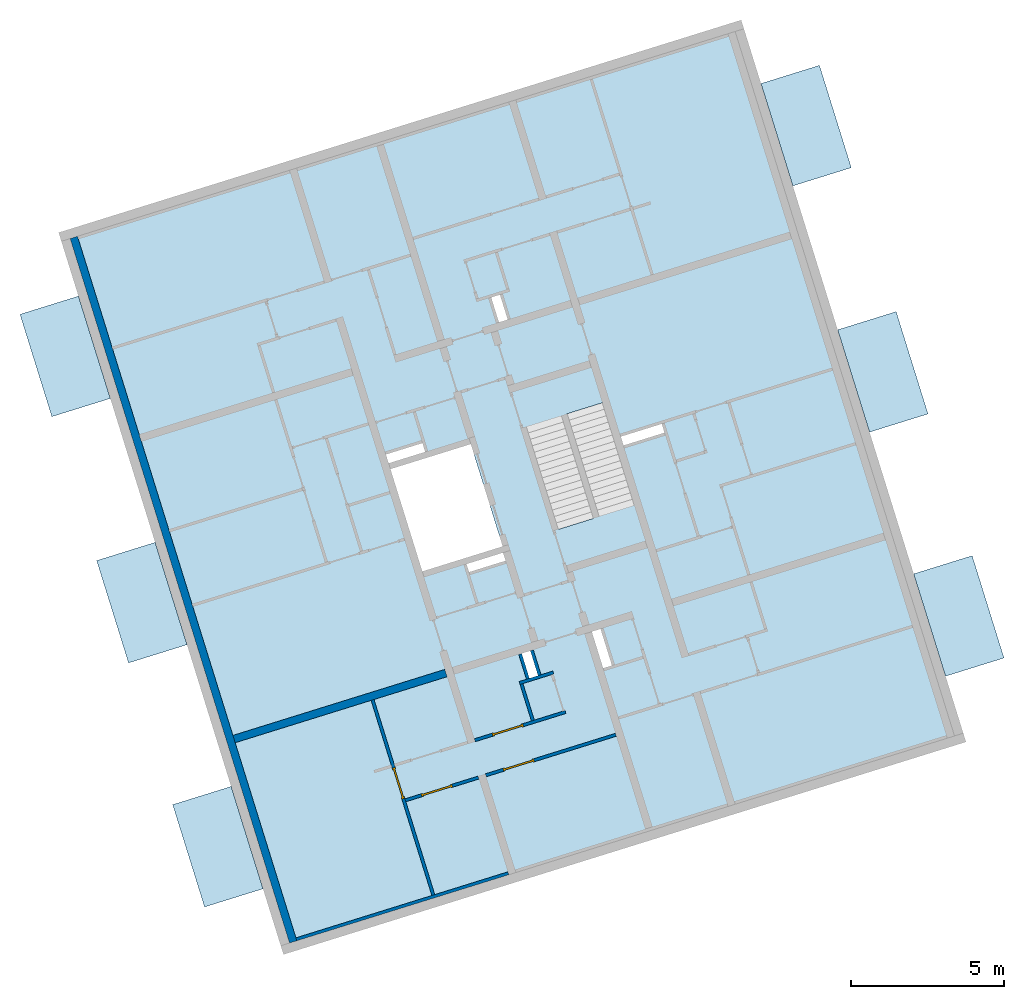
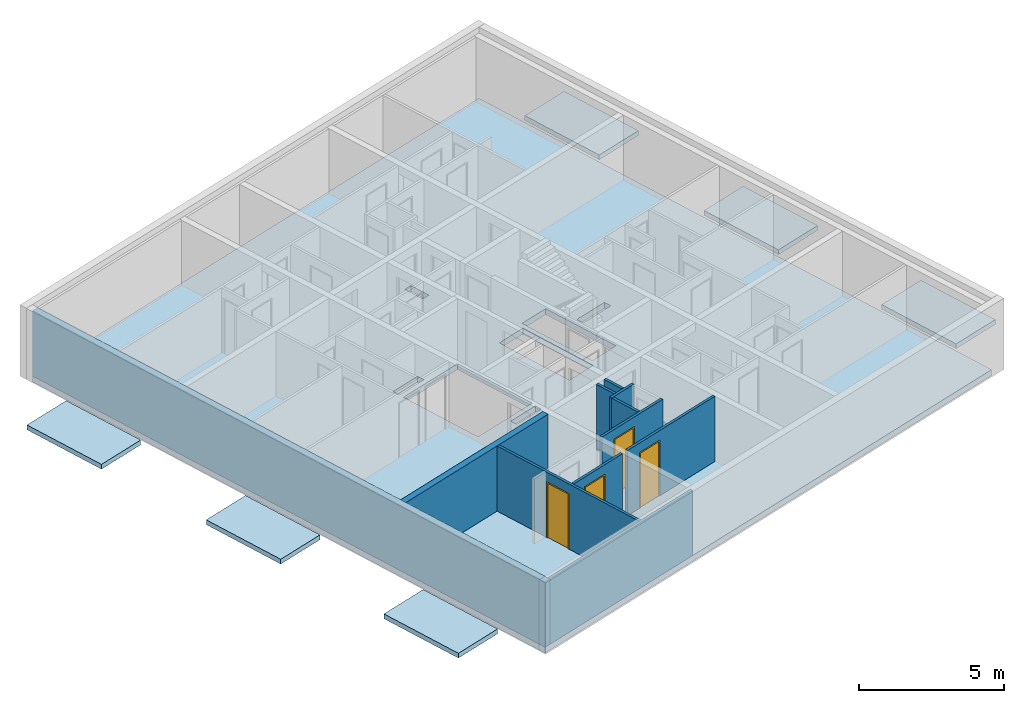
# One storey, part 1 of 8: 11 walls, 7 slabs, 4 doors, 13 openings.
"""IFC4 building model written with IfcOpenShell, lengths in metres."""

import ifcopenshell
import ifcopenshell.guid

model = None  # the IFC model being written
_history = None  # IfcOwnerHistory: only IFC2X3 demands one
_inside = {}  # id of a spatial element -> (the spatial element, [elements in it])
_under = {}  # id of a project, library or spatial element -> (it, [spatial elements below it])
_declared = {}  # id of a project -> (the project, [libraries it declares])
_typed = {}  # id of a type object -> (the type object, [elements of that type])
_made_of = {}  # id of a material, layer set ... -> (it, [elements and type objects made of it])


def new_model(schema):
    """Start an empty IFC model of exactly this schema.

    Asked for "IFC4X3", IfcOpenShell would pick the latest addendum, in which some entities
    have other attributes; the version numbers below select the first issue.
    IFC2X3 requires an IfcOwnerHistory on every rooted entity: one is made here for all.
    """
    global model, _history
    if schema == "IFC4X3":
        model = ifcopenshell.file(schema_version=(4, 3, 0, 0))
    else:
        model = ifcopenshell.file(schema=schema)
    _inside.clear()
    _under.clear()
    _declared.clear()
    _typed.clear()
    _made_of.clear()
    _history = None
    if model.schema == "IFC2X3":
        org = make("IfcOrganization", Name="unknown")
        user = make(
            "IfcPersonAndOrganization",
            ThePerson=make("IfcPerson", FamilyName="unknown"),
            TheOrganization=org,
        )
        app = make(
            "IfcApplication",
            ApplicationDeveloper=org,
            Version="unknown",
            ApplicationFullName="unknown",
            ApplicationIdentifier="unknown",
        )
        _history = make(
            "IfcOwnerHistory",
            OwningUser=user,
            OwningApplication=app,
            ChangeAction="ADDED",
            CreationDate=0,
        )
    return model


def make(cls, **values):
    """One entity of the class cls with the attributes given. An attribute that is None is left unset."""
    return model.create_entity(
        cls, **{name: value for name, value in values.items() if value is not None}
    )


def entity(cls, *values):
    """Any entity or typed value of the class cls, its attributes in the order of the schema. None: left unset."""
    e = model.create_entity(cls)
    for i, value in enumerate(values):
        if value is not None:
            e[i] = value
    return e


def rooted(cls, **values):
    """An entity with a GlobalId (a new one), such as an element, a storey or a relation."""
    return make(cls, GlobalId=ifcopenshell.guid.new(), OwnerHistory=_history, **values)


def si_unit(unit_type, name, prefix=None):
    """IfcSIUnit, for example si_unit("LENGTHUNIT", "METRE", prefix="MILLI")."""
    return make("IfcSIUnit", UnitType=unit_type, Prefix=prefix, Name=name)


def converted_unit(unit_type, name, factor, base, dimensions=None, offset=None):
    """IfcConversionBasedUnit, such as the inch: factor (a typed value) times the base unit."""
    return make(
        "IfcConversionBasedUnit"
        if offset is None
        else "IfcConversionBasedUnitWithOffset",
        ConversionOffset=offset,
        Dimensions=None
        if dimensions is None
        else entity("IfcDimensionalExponents", *dimensions),
        UnitType=unit_type,
        Name=name,
        ConversionFactor=make(
            "IfcMeasureWithUnit", ValueComponent=factor, UnitComponent=base
        ),
    )


def assignment(units):
    """IfcUnitAssignment: the units of a project."""
    return None if units is None else make("IfcUnitAssignment", Units=units)


def point(xyz):
    """IfcCartesianPoint."""
    return None if xyz is None else make("IfcCartesianPoint", Coordinates=xyz)


def direction(xyz):
    """IfcDirection."""
    return None if xyz is None else make("IfcDirection", DirectionRatios=xyz)


def frame(location, z_axis=None, x_axis=None):
    """IfcAxis2Placement3D, a coordinate frame: its origin and axes. An axis left out is left unset."""
    return make(
        "IfcAxis2Placement3D",
        Location=point(location),
        Axis=direction(z_axis),
        RefDirection=direction(x_axis),
    )


def origin():
    """The frame at (0, 0, 0) with its axes left unset."""
    return frame((0.0, 0.0, 0.0))


def place(relative_to, where):
    """IfcLocalPlacement: puts the frame where relative to a parent placement (None: the world)."""
    return make(
        "IfcLocalPlacement", PlacementRelTo=relative_to, RelativePlacement=where
    )


def context(
    kind, dimensions, precision=None, world=None, true_north=None, identifier=None
):
    """IfcGeometricRepresentationContext, for example the 3D "Model" context."""
    return make(
        "IfcGeometricRepresentationContext",
        ContextIdentifier=identifier,
        ContextType=kind,
        CoordinateSpaceDimension=dimensions,
        Precision=precision,
        WorldCoordinateSystem=world,
        TrueNorth=true_north,
    )


def subcontext(parent, identifier, kind, view, scale=None):
    """IfcGeometricRepresentationSubContext, for example "Body" below "Model"."""
    return make(
        "IfcGeometricRepresentationSubContext",
        ContextIdentifier=identifier,
        ContextType=kind,
        ParentContext=parent,
        TargetScale=scale,
        TargetView=view,
    )


def project(units=None, contexts=None):
    """IfcProject with its units and contexts."""
    return rooted(
        "IfcProject",
        Name="project",
        RepresentationContexts=contexts,
        UnitsInContext=assignment(units),
    )


def spatial(cls, under=None, at=None, **own):
    """A site, building, storey or space (cls), placed at a placement, below another one or the project."""
    s = rooted(cls, ObjectPlacement=at, **own)
    if under is not None:
        _under.setdefault(under.id(), (under, []))[1].append(s)
    return s


def point_list(points):
    """IfcCartesianPointList2D or 3D."""
    cls = (
        "IfcCartesianPointList2D" if len(points[0]) == 2 else "IfcCartesianPointList3D"
    )
    return make(cls, CoordList=points)


def indexed_curve(points, segments=None, self_intersect=None):
    """IfcIndexedPolyCurve: lines and arcs through numbered points (the first is 1)."""
    return make(
        "IfcIndexedPolyCurve",
        Points=point_list(points),
        Segments=segments,
        SelfIntersect=self_intersect,
    )


def outline(outer, holes=None, kind="AREA"):
    """IfcArbitraryClosedProfileDef: a profile drawn as a closed curve; with holes, ...WithVoids."""
    if holes is None:
        return make("IfcArbitraryClosedProfileDef", ProfileType=kind, OuterCurve=outer)
    return make(
        "IfcArbitraryProfileDefWithVoids",
        ProfileType=kind,
        OuterCurve=outer,
        InnerCurves=holes,
    )


def extrude(swept, where, along, depth):
    """IfcExtrudedAreaSolid: the profile swept, set in the frame where, extruded along a direction by depth."""
    return make(
        "IfcExtrudedAreaSolid",
        SweptArea=swept,
        Position=where,
        ExtrudedDirection=direction(along),
        Depth=depth,
    )


def polygons(points, faces, closed=None, point_numbers=None):
    """IfcPolygonalFaceSet: a face is its outer loop, then its inner loops; points numbered from 1."""
    made = []
    for loops in faces:
        if len(loops) == 1:
            made.append(make("IfcIndexedPolygonalFace", CoordIndex=loops[0]))
        else:
            made.append(
                make(
                    "IfcIndexedPolygonalFaceWithVoids",
                    CoordIndex=loops[0],
                    InnerCoordIndices=loops[1:],
                )
            )
    return make(
        "IfcPolygonalFaceSet",
        Coordinates=point_list(points),
        Closed=closed,
        Faces=made,
        PnIndex=point_numbers,
    )


def shape(context_of_items, identifier, shape_type, items):
    """IfcShapeRepresentation: the items that make up one representation, for example the "Body"."""
    return make(
        "IfcShapeRepresentation",
        ContextOfItems=context_of_items,
        RepresentationIdentifier=identifier,
        RepresentationType=shape_type,
        Items=items,
    )


def source(mapping_origin, context_of_items, identifier, shape_type, items):
    """IfcRepresentationMap: a shape defined once, which mapped items show again and again."""
    return make(
        "IfcRepresentationMap",
        MappingOrigin=mapping_origin,
        MappedRepresentation=shape(context_of_items, identifier, shape_type, items),
    )


def transform(
    local_origin,
    x_axis=None,
    y_axis=None,
    z_axis=None,
    scale=None,
    scale2=None,
    scale3=None,
    uniform=True,
):
    """IfcCartesianTransformationOperator3D, or its non-uniform kind. x_axis, y_axis, z_axis: its Axis1, 2, 3."""
    if uniform:
        return make(
            "IfcCartesianTransformationOperator3D",
            Axis1=direction(x_axis),
            Axis2=direction(y_axis),
            LocalOrigin=point(local_origin),
            Scale=scale,
            Axis3=direction(z_axis),
        )
    return make(
        "IfcCartesianTransformationOperator3DnonUniform",
        Axis1=direction(x_axis),
        Axis2=direction(y_axis),
        LocalOrigin=point(local_origin),
        Scale=scale,
        Axis3=direction(z_axis),
        Scale2=scale2,
        Scale3=scale3,
    )


def mapped(mapping_source, mapping_target):
    """IfcMappedItem: shows the shape of a source again, moved by a transform."""
    return make(
        "IfcMappedItem", MappingSource=mapping_source, MappingTarget=mapping_target
    )


def material(Name=None, Category=None):
    """IfcMaterial."""
    return make("IfcMaterial", Name=Name, Category=Category)


def constituent(of_material, Name=None, Category=None, fraction=None):
    """IfcMaterialConstituent: one of the materials an element consists of."""
    return make(
        "IfcMaterialConstituent",
        Name=Name,
        Material=of_material,
        Fraction=fraction,
        Category=Category,
    )


def constituent_set(constituents=None, Name=None):
    """IfcMaterialConstituentSet."""
    return make(
        "IfcMaterialConstituentSet", Name=Name, MaterialConstituents=constituents
    )


def made_of(thing, what):
    """Note that an element or type object is made of a material, layer set ...; save() writes the relation."""
    if what is not None:
        _made_of.setdefault(what.id(), (what, []))[1].append(thing)
    return thing


def type_object(cls, material=None, **own):
    """A type object (cls), such as IfcWallType, which elements share."""
    return made_of(rooted(cls, **own), material)


def type_shapes(of_type, sources):
    """Give a type object the sources (RepresentationMaps) that its elements show as mapped items."""
    of_type.RepresentationMaps = sources


def element(
    cls,
    number,
    at=None,
    inside=None,
    cuts=None,
    type_object=None,
    material=None,
    context=None,
    identifier="Body",
    shape_type=None,
    held_by="IfcProductDefinitionShape",
    body=None,
    shapes=None,
    **own,
):
    """One element of the class cls, such as IfcWall. Its Tag is "e" and its number.

    at: its placement. inside: the storey or other place that contains it. cuts: it is an
    opening in that element (IfcRelVoidsElement). A single representation is given by context,
    identifier, shape_type and body (its items); several are given by shapes. held_by: the class
    of the entity that holds the representations. save() writes the other relations.
    """
    e = rooted(cls, Tag="e%d" % number, ObjectPlacement=at, **own)
    if body is not None:
        shapes = [shape(context, identifier, shape_type, body)]
    if shapes is not None:
        e.Representation = make(held_by, Representations=shapes)
    if inside is not None:
        _inside.setdefault(inside.id(), (inside, []))[1].append(e)
    if cuts is not None:
        rooted(
            "IfcRelVoidsElement", RelatingBuildingElement=cuts, RelatedOpeningElement=e
        )
    if type_object is not None:
        _typed.setdefault(type_object.id(), (type_object, []))[1].append(e)
    return made_of(e, material)


def fill(opening, filler):
    """IfcRelFillsElement: the door or window that sits in an opening."""
    return rooted(
        "IfcRelFillsElement",
        RelatingOpeningElement=opening,
        RelatedBuildingElement=filler,
    )


def aggregate(whole, parts):
    """IfcRelAggregates: a whole, such as a stair, and the parts it consists of."""
    return rooted("IfcRelAggregates", RelatingObject=whole, RelatedObjects=parts)


def save(model, path):
    """Write the relations noted so far, then the file.

    IfcRelAggregates (storeys below a building ...), IfcRelContainedInSpatialStructure (elements
    in a storey), IfcRelDefinesByType, IfcRelAssociatesMaterial and IfcRelDeclares: one each for
    every whole, place, type object, material and project.
    """
    for whole, parts in _under.values():
        aggregate(whole, parts)
    for where, things in _inside.values():
        rooted(
            "IfcRelContainedInSpatialStructure",
            RelatedElements=things,
            RelatingStructure=where,
        )
    for kind, things in _typed.values():
        rooted("IfcRelDefinesByType", RelatedObjects=things, RelatingType=kind)
    for what, things in _made_of.values():
        rooted("IfcRelAssociatesMaterial", RelatedObjects=things, RelatingMaterial=what)
    for by, libraries in _declared.values():
        rooted("IfcRelDeclares", RelatingContext=by, RelatedDefinitions=libraries)
    model.write(path)


model = new_model("IFC4")

# Units and contexts
model_context = context("Model", 3, precision=1e-05, world=origin(), true_north=direction((6.12323399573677e-17, 1.0)))
body_context = subcontext(model_context, "Body", "Model", "MODEL_VIEW")
ifc_project = project(units=[si_unit("LENGTHUNIT", "METRE"), si_unit("AREAUNIT", "SQUARE_METRE"), si_unit("VOLUMEUNIT", "CUBIC_METRE"), converted_unit("PLANEANGLEUNIT", "DEGREE", entity("IfcPlaneAngleMeasure", 0.0174532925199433), si_unit("PLANEANGLEUNIT", "RADIAN"), dimensions=[0, 0, 0, 0, 0, 0, 0])], contexts=[model_context])

# Site, building, storey
site_placement = place(None, frame((13.1347999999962, 11.9886000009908, 0.0), z_axis=(0.0, 0.0, 1.0), x_axis=(0.954770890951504, 0.297342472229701, 0.0)))
site = spatial("IfcSite", under=ifc_project, at=site_placement, Name="Schiehaven", CompositionType="ELEMENT")
building_placement = place(site_placement, origin())
building = spatial("IfcBuilding", under=site, at=building_placement, Name="VORM huis", CompositionType="ELEMENT")
storey_placement = place(building_placement, frame((0.0, 0.0, 21.9)))
storey = spatial("IfcBuildingStorey", under=building, at=storey_placement, Name="07 zevende verdieping", CompositionType="ELEMENT", Elevation=21.9)

# Slab, openings
ifc_material_1 = material(Name="beton_gewapend_ihw", Category="Miscellaneous")
slab_type_1 = type_object("IfcSlabType", Name="Floor:28_FL_skelet_vloer 250mm", PredefinedType="FLOOR", material=ifc_material_1)
slab_1_placement = place(storey_placement, origin())
slab_1 = element("IfcSlab", 1, at=slab_1_placement, inside=storey, type_object=slab_type_1, material=ifc_material_1, Name="Constructieve vloer", ObjectType="Vloer", PredefinedType="FLOOR", context=body_context, shape_type="SweptSolid", body=[
    extrude(outline(indexed_curve([(-12.05, -11.375), (12.05, -11.375), (12.05, 11.375), (-12.05, 11.375), (-12.05, -11.375)], self_intersect=False), holes=[indexed_curve([(-1.75, -3.62500000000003), (-1.75000000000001, -0.875000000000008), (1.74999999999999, -0.875000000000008), (1.74999999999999, -3.62500000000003), (-1.75, -3.62500000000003)], self_intersect=False), indexed_curve([(1.76, 2.22499999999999), (1.76, 1.02499999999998), (-1.54, 1.02499999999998), (-1.54, 2.22499999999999), (1.76, 2.22499999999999)], self_intersect=False), indexed_curve([(-1.75999999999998, 3.62499999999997), (1.54, 3.62499999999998), (1.54, 2.42499999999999), (-1.75999999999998, 2.42499999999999), (-1.75999999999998, 3.62499999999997)], self_intersect=False), indexed_curve([(5.27499999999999, -1.02499999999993), (6.125, -1.02499999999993), (6.12500000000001, -1.32499999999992), (5.275, -1.32499999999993), (5.27499999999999, -1.02499999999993)], self_intersect=False), indexed_curve([(5.27500000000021, 1.37500000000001), (6.52500000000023, 1.37500000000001), (6.52500000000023, 1.07500000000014), (5.27500000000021, 1.07500000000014), (5.27500000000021, 1.37500000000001)], self_intersect=False), indexed_curve([(-0.524999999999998, 5.27500000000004), (-0.224999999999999, 5.27500000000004), (-0.224999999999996, 3.87283572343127), (-0.524999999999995, 3.87283572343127), (-0.524999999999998, 5.27500000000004)], self_intersect=False), indexed_curve([(-6.12500000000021, 1.48400000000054), (-5.2750000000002, 1.48400000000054), (-5.2750000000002, 1.18400000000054), (-6.12500000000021, 1.18400000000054), (-6.12500000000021, 1.48400000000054)], self_intersect=False), indexed_curve([(1.94999999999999, -0.924999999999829), (2.22500000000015, -0.924999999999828), (2.22500000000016, -2.17499999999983), (1.94999999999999, -2.17499999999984), (1.94999999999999, -0.924999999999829)], self_intersect=False), indexed_curve([(-2.25000000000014, -2.37499999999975), (-1.95000000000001, -2.37499999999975), (-1.95, -3.62499999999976), (-2.25000000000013, -3.62499999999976), (-2.25000000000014, -2.37499999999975)], self_intersect=False)]), frame((16.2500000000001, 17.05, -0.249999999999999), z_axis=(0.0, 0.0, 1.0), x_axis=(0.0, -1.0, 0.0)), (0.0, 0.0, 1.0), 0.249999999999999),
])
opening_1_placement = place(slab_1_placement, origin())
element("IfcOpeningElement", 2, at=opening_1_placement, cuts=slab_1, Name="Constructieve vloer", PredefinedType="OPENING", context=body_context, shape_type="SweptSolid", body=[
    extrude(outline(indexed_curve([(-1.74999999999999, -1.37500000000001), (1.75, -1.37500000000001), (1.75, 1.37500000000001), (-1.75, 1.37500000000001), (-1.74999999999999, -1.37500000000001)], self_intersect=False)), frame((14.0, 17.05, -0.249999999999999), z_axis=(0.0, 0.0, 1.0), x_axis=(0.0, -1.0, 0.0)), (0.0, 0.0, 1.0), 0.249999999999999),
])
opening_2_placement = place(slab_1_placement, origin())
element("IfcOpeningElement", 3, at=opening_2_placement, cuts=slab_1, Name="Constructieve vloer", PredefinedType="OPENING", context=body_context, shape_type="SweptSolid", body=[
    extrude(outline(indexed_curve([(-1.65, -0.600000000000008), (1.65, -0.600000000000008), (1.65, 0.600000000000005), (-1.65, 0.600000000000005), (-1.65, -0.600000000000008)], self_intersect=False)), frame((17.8750000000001, 16.94, -0.249999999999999), z_axis=(0.0, 0.0, 1.0), x_axis=(0.0, 1.0, 0.0)), (0.0, 0.0, 1.0), 0.249999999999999),
])
opening_3_placement = place(slab_1_placement, origin())
element("IfcOpeningElement", 4, at=opening_3_placement, cuts=slab_1, Name="Constructieve vloer", PredefinedType="OPENING", context=body_context, shape_type="SweptSolid", body=[
    extrude(outline(indexed_curve([(-0.150000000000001, -0.425000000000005), (0.149999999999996, -0.425000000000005), (0.149999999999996, 0.425000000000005), (-0.150000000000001, 0.425000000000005), (-0.150000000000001, -0.425000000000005)], self_intersect=False)), frame((15.0750000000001, 11.35, -0.249999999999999), z_axis=(0.0, 0.0, 1.0), x_axis=(-1.0, 0.0, 0.0)), (0.0, 0.0, 1.0), 0.249999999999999),
])
opening_4_placement = place(slab_1_placement, origin())
element("IfcOpeningElement", 5, at=opening_4_placement, cuts=slab_1, Name="Constructieve vloer", PredefinedType="OPENING", context=body_context, shape_type="SweptSolid", body=[
    extrude(outline(indexed_curve([(-0.149999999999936, -0.625000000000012), (0.149999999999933, -0.625000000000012), (0.149999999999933, 0.625000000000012), (-0.149999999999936, 0.625000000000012), (-0.149999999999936, -0.625000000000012)], self_intersect=False)), frame((17.4750000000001, 11.1499999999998, -0.249999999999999), z_axis=(0.0, 0.0, 1.0), x_axis=(-1.0, 0.0, 0.0)), (0.0, 0.0, 1.0), 0.249999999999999),
])
opening_5_placement = place(slab_1_placement, origin())
element("IfcOpeningElement", 6, at=opening_5_placement, cuts=slab_1, Name="Constructieve vloer", PredefinedType="OPENING", context=body_context, shape_type="SweptSolid", body=[
    extrude(outline(indexed_curve([(-0.701082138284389, -0.149999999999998), (0.701082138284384, -0.149999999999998), (0.701082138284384, 0.150000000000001), (-0.701082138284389, 0.150000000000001), (-0.701082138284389, -0.149999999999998)], self_intersect=False)), frame((20.8239178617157, 17.425, -0.249999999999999), z_axis=(0.0, 0.0, 1.0), x_axis=(-1.0, 0.0, 0.0)), (0.0, 0.0, 1.0), 0.249999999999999),
])
opening_6_placement = place(slab_1_placement, origin())
element("IfcOpeningElement", 7, at=opening_6_placement, cuts=slab_1, Name="Constructieve vloer", PredefinedType="OPENING", context=body_context, shape_type="SweptSolid", body=[
    extrude(outline(indexed_curve([(-0.149999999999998, -0.425000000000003), (0.149999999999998, -0.425000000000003), (0.149999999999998, 0.425000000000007), (-0.149999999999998, 0.425000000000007), (-0.149999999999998, -0.425000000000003)], self_intersect=False)), frame((17.5840000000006, 22.7500000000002, -0.249999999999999), z_axis=(0.0, 0.0, 1.0), x_axis=(-1.0, 0.0, 0.0)), (0.0, 0.0, 1.0), 0.249999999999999),
])
opening_7_placement = place(slab_1_placement, origin())
element("IfcOpeningElement", 8, at=opening_7_placement, cuts=slab_1, Name="Constructieve vloer", PredefinedType="OPENING", context=body_context, shape_type="SweptSolid", body=[
    extrude(outline(indexed_curve([(-0.625000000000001, -0.137500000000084), (0.625000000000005, -0.137500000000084), (0.625000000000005, 0.137500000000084), (-0.625000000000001, 0.137500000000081), (-0.625000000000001, -0.137500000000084)], self_intersect=False)), frame((14.7000000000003, 14.9624999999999, -0.249999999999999), z_axis=(0.0, 0.0, 1.0), x_axis=(-1.0, 0.0, 0.0)), (0.0, 0.0, 1.0), 0.249999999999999),
])
opening_8_placement = place(slab_1_placement, origin())
element("IfcOpeningElement", 9, at=opening_8_placement, cuts=slab_1, Name="Constructieve vloer", PredefinedType="OPENING", context=body_context, shape_type="SweptSolid", body=[
    extrude(outline(indexed_curve([(-0.625000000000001, -0.150000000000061), (0.625000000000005, -0.150000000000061), (0.625000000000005, 0.150000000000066), (-0.625000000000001, 0.150000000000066), (-0.625000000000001, -0.150000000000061)], self_intersect=False)), frame((13.2500000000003, 19.1500000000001, -0.249999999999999), z_axis=(0.0, 0.0, 1.0), x_axis=(-1.0, 0.0, 0.0)), (0.0, 0.0, 1.0), 0.249999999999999),
])

# Slabs
ifc_material_2 = material(Name="beton_gewapend_prefab-element", Category="Miscellaneous")
slab_type_2 = type_object("IfcSlabType", Name="Floor:23_FL_skelet_balkon 200mm", PredefinedType="FLOOR", material=ifc_material_2)
slab_2_placement = place(storey_placement, origin())
element("IfcSlab", 10, at=slab_2_placement, inside=storey, type_object=slab_type_2, material=ifc_material_2, Name="Balkonvloer", ObjectType="Vloer", PredefinedType="FLOOR", context=body_context, shape_type="SweptSolid", body=[
    extrude(outline(indexed_curve([(-1.75000000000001, -1.0), (1.75000000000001, -1.0), (1.75000000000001, 0.999999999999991), (-1.75000000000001, 0.999999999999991), (-1.75000000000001, -1.0)], self_intersect=False)), frame((28.925, 25.475, 0.0), z_axis=(0.0, 0.0, -1.0), x_axis=(0.0, 1.0, 0.0)), (0.0, 0.0, 1.0), 0.199999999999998),
])
slab_3_placement = place(storey_placement, origin())
element("IfcSlab", 11, at=slab_3_placement, inside=storey, type_object=slab_type_2, material=ifc_material_2, Name="Balkonvloer", ObjectType="Vloer", PredefinedType="FLOOR", context=body_context, shape_type="SweptSolid", body=[
    extrude(outline(indexed_curve([(-1.74999999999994, -0.999999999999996), (1.75000000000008, -0.999999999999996), (1.74999999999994, 0.999999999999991), (-1.75000000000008, 0.999999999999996), (-1.74999999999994, -0.999999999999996)], self_intersect=False)), frame((28.9250000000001, 8.70000000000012, 0.0), z_axis=(0.0, 0.0, -1.0), x_axis=(0.0, 1.0, 0.0)), (0.0, 0.0, 1.0), 0.199999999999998),
])
slab_4_placement = place(storey_placement, origin())
element("IfcSlab", 12, at=slab_4_placement, inside=storey, type_object=slab_type_2, material=ifc_material_2, Name="Balkonvloer", ObjectType="Vloer", PredefinedType="FLOOR", context=body_context, shape_type="SweptSolid", body=[
    extrude(outline(indexed_curve([(-1.74999999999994, -0.999999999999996), (1.75000000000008, -0.999999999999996), (1.74999999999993, 0.999999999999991), (-1.75000000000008, 0.999999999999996), (-1.74999999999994, -0.999999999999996)], self_intersect=False)), frame((28.9250000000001, 17.05, 0.0), z_axis=(0.0, 0.0, -1.0), x_axis=(0.0, 1.0, 0.0)), (0.0, 0.0, 1.0), 0.199999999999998),
])
slab_5_placement = place(storey_placement, origin())
element("IfcSlab", 13, at=slab_5_placement, inside=storey, type_object=slab_type_2, material=ifc_material_2, Name="Balkonvloer", ObjectType="Vloer", PredefinedType="FLOOR", context=body_context, shape_type="SweptSolid", body=[
    extrude(outline(indexed_curve([(-1.74999999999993, -0.999999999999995), (1.75000000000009, -0.999999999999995), (1.74999999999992, 0.999999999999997), (-1.75000000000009, 0.999999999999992), (-1.74999999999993, -0.999999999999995)], self_intersect=False)), frame((3.5750000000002, 25.4750000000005, 0.0), z_axis=(0.0, 0.0, -1.0), x_axis=(0.0, 1.0, 0.0)), (0.0, 0.0, 1.0), 0.199999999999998),
])
slab_6_placement = place(storey_placement, origin())
element("IfcSlab", 14, at=slab_6_placement, inside=storey, type_object=slab_type_2, material=ifc_material_2, Name="Balkonvloer", ObjectType="Vloer", PredefinedType="FLOOR", context=body_context, shape_type="SweptSolid", body=[
    extrude(outline(indexed_curve([(-1.75000000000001, -0.999999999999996), (1.75000000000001, -0.999999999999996), (1.75000000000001, 0.999999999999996), (-1.75000000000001, 0.999999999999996), (-1.75000000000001, -0.999999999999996)], self_intersect=False)), frame((3.57500000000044, 8.69999999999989, 0.0), z_axis=(0.0, 0.0, -1.0), x_axis=(0.0, 1.0, 0.0)), (0.0, 0.0, 1.0), 0.199999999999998),
])
slab_7_placement = place(storey_placement, origin())
element("IfcSlab", 15, at=slab_7_placement, inside=storey, type_object=slab_type_2, material=ifc_material_2, Name="Balkonvloer", ObjectType="Vloer", PredefinedType="FLOOR", context=body_context, shape_type="SweptSolid", body=[
    extrude(outline(indexed_curve([(-1.75000000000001, -0.999999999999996), (1.75000000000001, -0.999999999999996), (1.75000000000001, 0.999999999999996), (-1.75000000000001, 0.999999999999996), (-1.75000000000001, -0.999999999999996)], self_intersect=False)), frame((3.5750000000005, 17.0499999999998, 0.0), z_axis=(0.0, 0.0, -1.0), x_axis=(0.0, 1.0, 0.0)), (0.0, 0.0, 1.0), 0.199999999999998),
])

# Walls
wall_type_1 = type_object("IfcWallType", Name="Basic Wall:28_WA_skelet_wand 250mm_gen", PredefinedType="STANDARD")
wall_1_placement = place(storey_placement, frame((5.0, 5.0, 0.0), z_axis=(0.0, 0.0, 1.0), x_axis=(0.0, 1.0, 0.0)))
element("IfcWall", 16, at=wall_1_placement, inside=storey, type_object=wall_type_1, material=ifc_material_1, Name="Constructieve wand", ObjectType="Wand", PredefinedType="NOTDEFINED", context=body_context, shape_type="SweptSolid", body=[
    extrude(outline(indexed_curve([(24.1, 0.125), (4.21737840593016e-16, 0.125), (-4.21737840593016e-16, -0.125), (24.1, -0.125), (24.1, 0.125)], self_intersect=False)), origin(), (0.0, 0.0, 1.0), 2.75),
])
ifc_material_3 = material(Name="ntb_ntb_ntb", Category="Miscellaneous")
wall_type_2 = type_object("IfcWallType", Name="Basic Wall:21_WA_gevel_binnenspouwwand 100mm_gen", PredefinedType="STANDARD")
wall_2_placement = place(storey_placement, frame((5.12500000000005, 5.05000000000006, 0.0)))
element("IfcWall", 17, at=wall_2_placement, inside=storey, type_object=wall_type_2, material=ifc_material_3, Name="Binnenspouwblad", ObjectType="Wand", PredefinedType="NOTDEFINED", context=body_context, shape_type="SweptSolid", body=[
    extrude(outline(indexed_curve([(7.24999999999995, 0.0499999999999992), (-1.84844170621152e-16, 0.0499999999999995), (1.84844170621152e-16, -0.0499999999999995), (7.24999999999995, -0.0499999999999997), (7.24999999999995, 0.0499999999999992)], self_intersect=False)), origin(), (0.0, 0.0, 1.0), 2.75),
])
wall_type_3 = type_object("IfcWallType", Name="Basic Wall:22_WA_afbouw_binnenwand 250mm_gen", PredefinedType="STANDARD")
wall_3_placement = place(storey_placement, frame((12.3750000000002, 11.8999999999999, 0.0), z_axis=(0.0, 0.0, 1.0), x_axis=(-1.0, 0.0, 0.0)))
element("IfcWall", 18, at=wall_3_placement, inside=storey, type_object=wall_type_3, material=ifc_material_3, Name="Binnenwand", ObjectType="Wand", PredefinedType="NOTDEFINED", context=body_context, shape_type="SweptSolid", body=[
    extrude(outline(indexed_curve([(7.24999999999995, 0.124999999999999), (3.52198535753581e-16, 0.125), (-3.52198535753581e-16, -0.125), (7.24999999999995, -0.125000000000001), (7.24999999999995, 0.124999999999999)], self_intersect=False)), origin(), (0.0, 0.0, 1.0), 2.75),
])

# Wall, opening, door
wall_type_4 = type_object("IfcWallType", Name="Basic Wall:22_WA_afbouw_binnenwand 100mm_gen", PredefinedType="STANDARD")
wall_4_placement = place(storey_placement, frame((12.6250000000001, 8.32499999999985, 0.0)))
wall_4 = element("IfcWall", 19, at=wall_4_placement, inside=storey, type_object=wall_type_4, material=ifc_material_3, Name="Binnenwand", ObjectType="Wand", PredefinedType="NOTDEFINED", context=body_context, shape_type="Tessellation", body=[
    polygons([(8.64956216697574e-16, -0.0500000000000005, 0.0), (0.600000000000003, -0.0500000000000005, 0.0), (0.600000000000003, -0.0500000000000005, 2.34999999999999), (1.65, -0.0500000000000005, 2.34999999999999), (1.65, -0.0500000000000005, 0.0), (4.45000000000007, -0.0500000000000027, 0.0), (4.45000000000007, -0.0500000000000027, 2.75), (8.64956216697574e-16, -0.0500000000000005, 2.75), (0.600000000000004, 0.0499999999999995, 2.34999999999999), (0.600000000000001, 0.0499999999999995, 0.0), (1.41847817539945e-15, 0.0499999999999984, 0.0), (1.41847817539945e-15, 0.0499999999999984, 2.75), (4.45000000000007, 0.0499999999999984, 2.75), (4.45000000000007, 0.0499999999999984, 0.0), (1.65, 0.0499999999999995, 0.0), (1.65000000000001, 0.0499999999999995, 2.34999999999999)], [[[1, 2, 3, 4, 5, 6, 7, 8]], [[9, 10, 11, 12, 13, 14, 15, 16]], [[11, 10, 2, 1]], [[7, 6, 14, 13]], [[8, 7, 13, 12]], [[1, 8, 12, 11]], [[5, 4, 16, 15]], [[3, 2, 10, 9]], [[4, 3, 9, 16]], [[15, 14, 6, 5]]], closed=True),
])
opening_9_placement = place(wall_4_placement, frame((0.600000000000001, -0.0500000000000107, 0.0)))
opening_9 = element("IfcOpeningElement", 20, at=opening_9_placement, cuts=wall_4, Name="Binnendeur", PredefinedType="OPENING", context=body_context, shape_type="SweptSolid", body=[
    extrude(outline(indexed_curve([(2.34999999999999, 1.05), (0.0, 1.05), (0.0, 1.35358391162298e-15), (2.34999999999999, 1.35358391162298e-15), (2.34999999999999, 1.05)], self_intersect=False)), frame((0.0, 0.0, 0.0), z_axis=(0.0, 1.0, 0.0), x_axis=(0.0, 0.0, 1.0)), (0.0, 0.0, 1.0), 0.1),
])
ifc_material_4 = material(Name="PD_a_binnenwandopeningen", Category="Miscellaneous")
ifc_constituent_1 = constituent(ifc_material_4, Name="PD_a_binnenwandopeningen", Category="Miscellaneous")
ifc_material_5 = material(Name="metaal_aluminium_ntb", Category="Miscellaneous")
ifc_constituent_2 = constituent(ifc_material_5, Name="metaal_aluminium_ntb", Category="Miscellaneous")
ifc_constituent_set_1 = constituent_set(constituents=[ifc_constituent_1, ifc_constituent_2])
door_type = type_object("IfcDoorType", Name="32_DO_binnendeur enkel:binnendeur", OperationType="REVOLVING", PredefinedType="DOOR")
shared_shape_1 = source(origin(), body_context, "Body", "SweptSolid", [
    extrude(outline(indexed_curve([(-1.16249999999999, -0.525000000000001), (1.18749999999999, -0.525), (1.18749999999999, 0.525), (-1.16249999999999, 0.525), (-1.16249999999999, 0.475), (1.13749999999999, 0.475), (1.13749999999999, -0.475), (-1.16249999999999, -0.475), (-1.16249999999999, -0.525000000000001)], self_intersect=False)), frame((0.525000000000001, 0.0, 1.16249999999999), z_axis=(0.0, 1.0, 0.0), x_axis=(0.0, 0.0, 1.0)), (0.0, 0.0, 1.0), 0.1),
    extrude(outline(indexed_curve([(-0.025, -0.475), (0.025, -0.475), (0.025, 0.475), (-0.025, 0.475), (-0.025, -0.475)], self_intersect=False)), frame((0.525000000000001, 0.0499999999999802, 0.0), z_axis=(0.0, 0.0, 1.0), x_axis=(0.0, 1.0, 0.0)), (0.0, 0.0, 1.0), 2.29999999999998),
])
type_shapes(door_type, [shared_shape_1])
door_1_placement = place(opening_9_placement, origin())
door_1 = element("IfcDoor", 21, at=door_1_placement, inside=storey, type_object=door_type, material=ifc_constituent_set_1, Name="Binnendeur", ObjectType="Deur", OperationType="REVOLVING", OverallHeight=2.34999999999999, OverallWidth=1.05, PredefinedType="DOOR", context=body_context, shape_type="MappedRepresentation", body=[
    mapped(shared_shape_1, transform((0.0, 0.0, 0.0), scale=1.0)),
])
fill(opening_9, door_1)

# Wall, openings, door
wall_5_placement = place(storey_placement, frame((12.6250000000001, 9.52499999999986, 0.0)))
wall_5 = element("IfcWall", 22, at=wall_5_placement, inside=storey, type_object=wall_type_4, material=ifc_material_3, Name="Binnenwand", ObjectType="Wand", PredefinedType="NOTDEFINED", context=body_context, shape_type="Tessellation", body=[
    polygons([(1.65, -0.0500000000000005, 2.34999999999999), (1.65, -0.0500000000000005, 0.0), (3.10000000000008, -0.0500000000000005, 0.0), (3.10000000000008, -0.0500000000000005, 2.75), (1.0100169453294e-15, -0.0500000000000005, 2.75), (1.0100169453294e-15, -0.0500000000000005, 0.0), (0.600000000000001, -0.0500000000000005, 0.0), (0.600000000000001, -0.0500000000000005, 2.34999999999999), (3.10000000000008, 0.0499999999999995, 0.0), (2.05000000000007, 0.0499999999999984, 0.0), (1.95000000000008, 0.0499999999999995, 0.0), (1.65, 0.0499999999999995, 0.0), (1.65, 0.0499999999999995, 2.34999999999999), (0.599999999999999, 0.0499999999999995, 2.34999999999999), (0.600000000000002, 0.0499999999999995, 0.0), (1.56353890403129e-15, 0.0499999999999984, 0.0), (1.56353890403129e-15, 0.0499999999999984, 2.75), (1.95000000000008, 0.0499999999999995, 2.75), (2.05000000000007, 0.0499999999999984, 2.75), (3.00000000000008, 0.0499999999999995, 2.75), (3.10000000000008, 0.0499999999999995, 2.75), (3.10000000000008, 0.0499999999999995, 2.34999999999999)], [[[1, 2, 3, 4, 5, 6, 7, 8]], [[9, 10, 11, 12, 13, 14, 15, 16, 17, 18, 19, 20, 21, 22]], [[7, 6, 16, 15]], [[5, 4, 21, 20, 19, 18, 17]], [[6, 5, 17, 16]], [[15, 14, 8, 7]], [[13, 12, 2, 1]], [[14, 13, 1, 8]], [[4, 3, 9, 22, 21]], [[3, 2, 12, 11, 10, 9]]], closed=True),
])
opening_10_placement = place(wall_5_placement, origin())
element("IfcOpeningElement", 23, at=opening_10_placement, cuts=wall_5, Name="Binnendeur", PredefinedType="OPENING", context=body_context, shape_type="SweptSolid", body=[
    extrude(outline(indexed_curve([(-0.0499999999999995, -1.17499999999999), (0.0499999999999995, -1.17499999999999), (0.0499999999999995, 1.17499999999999), (-0.0499999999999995, 1.17499999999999), (-0.0499999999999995, -1.17499999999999)], self_intersect=False)), frame((3.05000000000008, 0.0499999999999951, 1.17499999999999), z_axis=(0.0, 1.0, 0.0), x_axis=(-1.0, 0.0, 0.0)), (0.0, 0.0, 1.0), 1.05),
])
opening_11_placement = place(wall_5_placement, frame((1.65, 0.0499999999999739, 0.0)))
opening_11 = element("IfcOpeningElement", 24, at=opening_11_placement, cuts=wall_5, Name="Binnendeur", PredefinedType="OPENING", context=body_context, shape_type="SweptSolid", body=[
    extrude(outline(indexed_curve([(2.34999999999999, 1.05), (0.0, 1.05), (0.0, 1.35358391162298e-15), (2.34999999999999, 1.35358391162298e-15), (2.34999999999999, 1.05)], self_intersect=False)), frame((0.0, 0.0, 0.0), z_axis=(0.0, -1.0, 0.0), x_axis=(0.0, 0.0, 1.0)), (0.0, 0.0, 1.0), 0.1),
])
ifc_constituent_3 = constituent(ifc_material_4, Name="PD_a_binnenwandopeningen", Category="Miscellaneous")
ifc_constituent_4 = constituent(ifc_material_5, Name="metaal_aluminium_ntb", Category="Miscellaneous")
ifc_constituent_set_2 = constituent_set(constituents=[ifc_constituent_3, ifc_constituent_4])
door_2_placement = place(opening_11_placement, frame((0.0, 0.0, 0.0), z_axis=(0.0, 0.0, 1.0), x_axis=(-1.0, 0.0, 0.0)))
door_2 = element("IfcDoor", 25, at=door_2_placement, inside=storey, type_object=door_type, material=ifc_constituent_set_2, Name="Binnendeur", ObjectType="Deur", OperationType="REVOLVING", OverallHeight=2.34999999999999, OverallWidth=1.05, PredefinedType="DOOR", context=body_context, shape_type="MappedRepresentation", body=[
    mapped(shared_shape_1, transform((0.0, 0.0, 0.0), scale=1.0)),
])
fill(opening_11, door_2)

# Walls
wall_6_placement = place(storey_placement, frame((14.5750000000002, 10.8749999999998, 0.0)))
element("IfcWall", 26, at=wall_6_placement, inside=storey, type_object=wall_type_4, material=ifc_material_3, Name="Binnenwand", ObjectType="Wand", PredefinedType="NOTDEFINED", context=body_context, shape_type="SweptSolid", body=[
    extrude(outline(indexed_curve([(1.15, 0.0499999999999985), (-8.06106149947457e-16, 0.0499999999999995), (8.06106149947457e-16, -0.0499999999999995), (1.15, -0.0500000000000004), (1.15, 0.0499999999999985)], self_intersect=False)), origin(), (0.0, 0.0, 1.0), 2.75),
])
wall_7_placement = place(storey_placement, frame((14.6250000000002, 10.8249999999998, 0.0), z_axis=(0.0, 0.0, 1.0), x_axis=(0.0, -1.0, 0.0)))
element("IfcWall", 27, at=wall_7_placement, inside=storey, type_object=wall_type_4, material=ifc_material_3, Name="Binnenwand", ObjectType="Wand", PredefinedType="NOTDEFINED", context=body_context, shape_type="SweptSolid", body=[
    extrude(outline(indexed_curve([(1.25, 0.0499999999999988), (-7.54991624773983e-16, 0.0499999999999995), (7.54991624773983e-16, -0.0499999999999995), (1.25, -0.0500000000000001), (1.25, 0.0499999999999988)], self_intersect=False)), origin(), (0.0, 0.0, 1.0), 2.75),
])
wall_8_placement = place(storey_placement, frame((15.2750000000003, 11.7749999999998, 0.0), z_axis=(0.0, 0.0, 1.0), x_axis=(0.0, -1.0, 0.0)))
element("IfcWall", 28, at=wall_8_placement, inside=storey, type_object=wall_type_4, material=ifc_material_3, Name="Binnenwand", ObjectType="Wand", PredefinedType="NOTDEFINED", context=body_context, shape_type="SweptSolid", body=[
    extrude(outline(indexed_curve([(0.850000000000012, 0.0499999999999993), (-7.54991624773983e-16, 0.0499999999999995), (7.54991624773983e-16, -0.0499999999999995), (0.850000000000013, -0.0499999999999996), (0.850000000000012, 0.0499999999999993)], self_intersect=False)), origin(), (0.0, 0.0, 1.0), 2.75),
])

# Wall, opening, door
wall_9_placement = place(storey_placement, frame((12.3750000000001, 8.32499999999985, 0.0), z_axis=(0.0, 0.0, 1.0), x_axis=(-1.0, 0.0, 0.0)))
wall_9 = element("IfcWall", 29, at=wall_9_placement, inside=storey, type_object=wall_type_4, material=ifc_material_3, Name="Binnenwand", ObjectType="Wand", PredefinedType="NOTDEFINED", context=body_context, shape_type="Tessellation", body=[
    polygons([(-6.61056801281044e-16, -0.0500000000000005, 0.0), (0.899999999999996, -0.0500000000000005, 0.0), (0.899999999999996, -0.0500000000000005, 2.34999999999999), (1.95, -0.0500000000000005, 2.34999999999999), (1.95, -0.0500000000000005, 0.0), (2.50000000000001, -0.0500000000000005, 0.0), (2.50000000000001, -0.0500000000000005, 2.75), (-6.61056801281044e-16, -0.0500000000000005, 2.75), (0.899999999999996, 0.0499999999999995, 2.34999999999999), (0.899999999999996, 0.0499999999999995, 0.0), (-5.30330896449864e-16, 0.0499999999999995, 0.0), (-5.30330896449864e-16, 0.0499999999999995, 2.75), (2.50000000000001, 0.0499999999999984, 2.75), (2.50000000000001, 0.0499999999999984, 0.0), (1.95, 0.0499999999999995, 0.0), (1.95, 0.0499999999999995, 2.34999999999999)], [[[1, 2, 3, 4, 5, 6, 7, 8]], [[9, 10, 11, 12, 13, 14, 15, 16]], [[11, 10, 2, 1]], [[8, 7, 13, 12]], [[1, 8, 12, 11]], [[5, 4, 16, 15]], [[3, 2, 10, 9]], [[4, 3, 9, 16]], [[7, 6, 14, 13]], [[15, 14, 6, 5]]], closed=True),
])
opening_12_placement = place(wall_9_placement, frame((1.95, 0.0499999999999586, 0.0)))
opening_12 = element("IfcOpeningElement", 30, at=opening_12_placement, cuts=wall_9, Name="Binnendeur", PredefinedType="OPENING", context=body_context, shape_type="SweptSolid", body=[
    extrude(outline(indexed_curve([(2.34999999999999, 1.35358391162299e-15), (2.34999999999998, 1.05), (0.0, 1.05), (2.16573425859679e-15, 1.35358391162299e-15), (2.34999999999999, 1.35358391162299e-15)], self_intersect=False)), frame((0.0, 0.0, 0.0), z_axis=(0.0, -1.0, 0.0), x_axis=(0.0, 0.0, 1.0)), (0.0, 0.0, 1.0), 0.1),
])
ifc_constituent_5 = constituent(ifc_material_4, Name="PD_a_binnenwandopeningen", Category="Miscellaneous")
ifc_constituent_6 = constituent(ifc_material_5, Name="metaal_aluminium_ntb", Category="Miscellaneous")
ifc_constituent_set_3 = constituent_set(constituents=[ifc_constituent_5, ifc_constituent_6])
shared_shape_2 = source(origin(), body_context, "Body", "SweptSolid", [
    extrude(outline(indexed_curve([(0.475, -1.16249999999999), (0.525, -1.16249999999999), (0.525, 1.18749999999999), (-0.525, 1.18749999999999), (-0.525, -1.16249999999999), (-0.475, -1.16249999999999), (-0.475, 1.13749999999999), (0.475, 1.13749999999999), (0.475, -1.16249999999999)], self_intersect=False)), frame((0.525000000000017, 0.100000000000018, 1.16249999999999), z_axis=(0.0, -1.0, 0.0), x_axis=(1.0, 0.0, 0.0)), (0.0, 0.0, 1.0), 0.1),
    extrude(outline(indexed_curve([(-0.475, -0.025), (0.475, -0.025), (0.475, 0.025), (-0.475, 0.025), (-0.475, -0.025)], self_intersect=False)), frame((0.525000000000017, 0.0499999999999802, 0.0)), (0.0, 0.0, 1.0), 2.29999999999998),
])
door_3_placement = place(opening_12_placement, frame((0.0, 0.0, 0.0), z_axis=(0.0, 0.0, 1.0), x_axis=(-1.0, 0.0, 0.0)))
door_3 = element("IfcDoor", 31, at=door_3_placement, inside=storey, type_object=door_type, material=ifc_constituent_set_3, Name="Binnendeur", ObjectType="Deur", OperationType="REVOLVING", OverallHeight=2.34999999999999, OverallWidth=1.05, PredefinedType="DOOR", context=body_context, shape_type="MappedRepresentation", body=[
    mapped(shared_shape_2, transform((0.0, 0.0, 0.0), scale=1.0)),
])
fill(opening_12, door_3)

wall_10_placement = place(storey_placement, frame((9.82500000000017, 11.7749999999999, 0.0), z_axis=(0.0, 0.0, 1.0), x_axis=(0.0, -1.0, 0.0)))
wall_10 = element("IfcWall", 32, at=wall_10_placement, inside=storey, type_object=wall_type_4, material=ifc_material_3, Name="Binnenwand", ObjectType="Wand", PredefinedType="NOTDEFINED", context=body_context, shape_type="Tessellation", body=[
    polygons([(2.16573425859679e-15, -0.0500000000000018, 0.0), (2.19999999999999, -0.0500000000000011, 0.0), (2.29999999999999, -0.0500000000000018, 0.0), (2.32500000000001, -0.0500000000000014, 0.0), (2.32500000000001, -0.0500000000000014, 2.34999999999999), (3.37500000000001, -0.0500000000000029, 2.34999999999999), (3.37500000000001, -0.0500000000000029, 0.0), (6.675, -0.0500000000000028, 0.0), (6.675, -0.0500000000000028, 2.75), (2.29999999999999, -0.0500000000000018, 2.75), (2.19999999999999, -0.0500000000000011, 2.75), (2.16573425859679e-15, -0.0500000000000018, 2.75), (2.32500000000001, 0.0499999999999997, 2.34999999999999), (2.32500000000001, 0.0499999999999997, 0.0), (2.29999999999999, 0.0499999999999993, 0.0), (2.19999999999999, 0.05, 0.0), (2.16573425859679e-15, 0.0499999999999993, 0.0), (2.16573425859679e-15, 0.0499999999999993, 2.75), (2.19999999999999, 0.05, 2.75), (2.29999999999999, 0.0499999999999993, 2.75), (3.4, 0.0499999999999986, 2.75), (3.5, 0.0500000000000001, 2.75), (6.67499999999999, 0.0499999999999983, 2.75), (6.67499999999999, 0.0499999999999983, 0.0), (3.5, 0.0500000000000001, 0.0), (3.4, 0.0499999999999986, 0.0), (3.37500000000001, 0.0499999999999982, 0.0), (3.37500000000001, 0.0499999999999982, 2.34999999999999)], [[[1, 2, 3, 4, 5, 6, 7, 8, 9, 10, 11, 12]], [[13, 14, 15, 16, 17, 18, 19, 20, 21, 22, 23, 24, 25, 26, 27, 28]], [[17, 16, 15, 14, 4, 3, 2, 1]], [[9, 8, 24, 23]], [[12, 11, 10, 9, 23, 22, 21, 20, 19, 18]], [[1, 12, 18, 17]], [[7, 6, 28, 27]], [[5, 4, 14, 13]], [[6, 5, 13, 28]], [[27, 26, 25, 24, 8, 7]]], closed=True),
])
opening_13_placement = place(wall_10_placement, frame((2.32500000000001, -0.0500000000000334, 0.0)))
opening_13 = element("IfcOpeningElement", 33, at=opening_13_placement, cuts=wall_10, Name="Binnendeur", PredefinedType="OPENING", context=body_context, shape_type="SweptSolid", body=[
    extrude(outline(indexed_curve([(2.34999999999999, 1.05), (0.0, 1.05), (0.0, 2.70716782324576e-16), (2.34999999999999, 2.70716782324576e-16), (2.34999999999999, 1.05)], self_intersect=False)), frame((0.0, 0.0, 0.0), z_axis=(0.0, 1.0, 0.0), x_axis=(0.0, 0.0, 1.0)), (0.0, 0.0, 1.0), 0.1),
])
ifc_constituent_7 = constituent(ifc_material_4, Name="PD_a_binnenwandopeningen", Category="Miscellaneous")
ifc_constituent_8 = constituent(ifc_material_5, Name="metaal_aluminium_ntb", Category="Miscellaneous")
ifc_constituent_set_4 = constituent_set(constituents=[ifc_constituent_7, ifc_constituent_8])
door_4_placement = place(opening_13_placement, origin())
door_4 = element("IfcDoor", 34, at=door_4_placement, inside=storey, type_object=door_type, material=ifc_constituent_set_4, Name="Binnendeur", ObjectType="Deur", OperationType="REVOLVING", OverallHeight=2.34999999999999, OverallWidth=1.05, PredefinedType="DOOR", context=body_context, shape_type="MappedRepresentation", body=[
    mapped(shared_shape_1, transform((0.0, 0.0, 0.0), scale=1.0)),
])
fill(opening_13, door_4)

# Wall
wall_11_placement = place(storey_placement, frame((14.8750000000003, 11.7749999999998, 0.0), z_axis=(0.0, 0.0, 1.0), x_axis=(0.0, -1.0, 0.0)))
element("IfcWall", 35, at=wall_11_placement, inside=storey, type_object=wall_type_4, material=ifc_material_3, Name="Binnenwand", ObjectType="Wand", PredefinedType="NOTDEFINED", context=body_context, shape_type="SweptSolid", body=[
    extrude(outline(indexed_curve([(0.850000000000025, 0.0499999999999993), (-7.54991624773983e-16, 0.0499999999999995), (7.54991624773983e-16, -0.0499999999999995), (0.850000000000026, -0.0499999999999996), (0.850000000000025, 0.0499999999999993)], self_intersect=False)), origin(), (0.0, 0.0, 1.0), 2.75),
])

save(model, "model.ifc")
